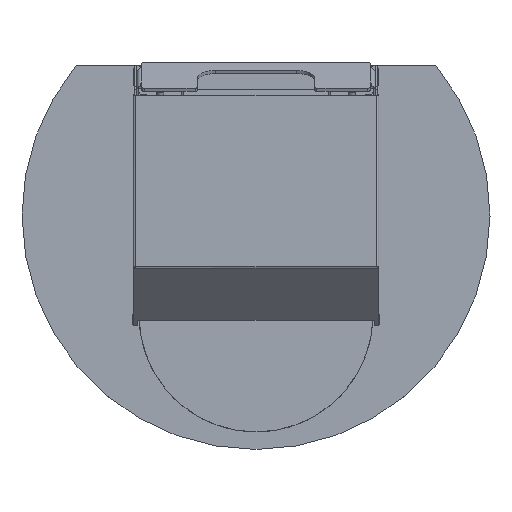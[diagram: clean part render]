
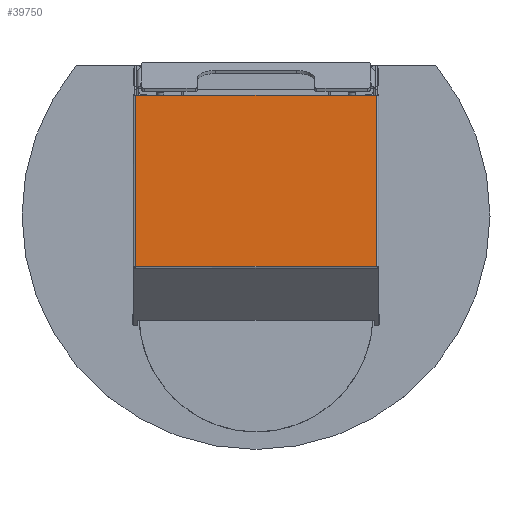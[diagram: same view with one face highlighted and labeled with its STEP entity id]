
A CAD part, top view. The second image highlights one B-rep face of the part: STEP entity #39750.
In plain terms, the highlighted planar face has unit normal (0, 0, 1).
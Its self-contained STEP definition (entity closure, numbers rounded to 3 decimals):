
#15494=DIRECTION('',(-1.,0.,0.));
#15495=VECTOR('',#15494,205.86);
#15496=CARTESIAN_POINT('',(102.93,102.685,51.5));
#15497=LINE('',#15496,#15495);
#15534=DIRECTION('',(0.,1.,0.));
#15535=VECTOR('',#15534,146.393);
#15536=CARTESIAN_POINT('',(-102.93,-43.708,51.5));
#15537=LINE('',#15536,#15535);
#15608=DIRECTION('',(0.,-1.,0.));
#15609=VECTOR('',#15608,146.393);
#15610=CARTESIAN_POINT('',(102.93,102.685,51.5));
#15611=LINE('',#15610,#15609);
#15687=CARTESIAN_POINT('',(-102.93,-43.708,51.5));
#15700=DIRECTION('',(-1.,0.,0.));
#15701=VECTOR('',#15700,205.86);
#15702=CARTESIAN_POINT('',(102.93,-43.708,51.5));
#15703=LINE('',#15702,#15701);
#18416=VERTEX_POINT('',#15687);
#18417=CARTESIAN_POINT('',(-102.93,102.685,51.5));
#18418=VERTEX_POINT('',#18417);
#18429=CARTESIAN_POINT('',(102.93,102.685,51.5));
#18430=CARTESIAN_POINT('',(102.93,-43.708,51.5));
#18431=VERTEX_POINT('',#18429);
#18432=VERTEX_POINT('',#18430);
#39736=CARTESIAN_POINT('',(-105.,-44.566,51.5));
#39737=DIRECTION('',(0.,0.,-1.));
#39738=DIRECTION('',(0.,-1.,0.));
#39739=AXIS2_PLACEMENT_3D('',#39736,#39737,#39738);
#39740=PLANE('',#39739);
#39742=ORIENTED_EDGE('',*,*,#39741,.T.);
#39743=ORIENTED_EDGE('',*,*,#39717,.F.);
#39745=ORIENTED_EDGE('',*,*,#39744,.T.);
#39747=ORIENTED_EDGE('',*,*,#39746,.T.);
#39748=EDGE_LOOP('',(#39742,#39743,#39745,#39747));
#39749=FACE_OUTER_BOUND('',#39748,.F.);
#39750=ADVANCED_FACE('',(#39749),#39740,.F.);
#39717=EDGE_CURVE('',#18431,#18418,#15497,.T.);
#39741=EDGE_CURVE('',#18416,#18418,#15537,.T.);
#39744=EDGE_CURVE('',#18431,#18432,#15611,.T.);
#39746=EDGE_CURVE('',#18432,#18416,#15703,.T.);
